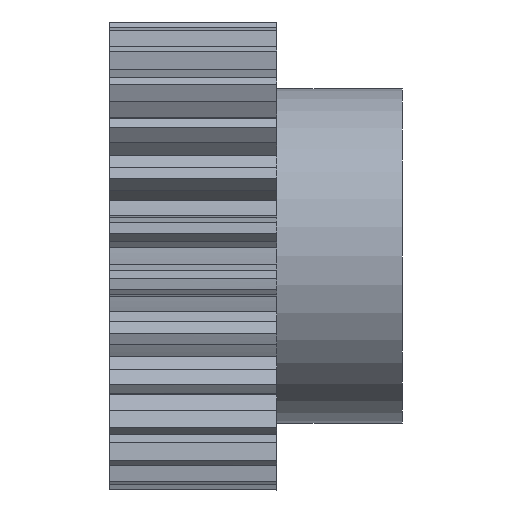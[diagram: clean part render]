
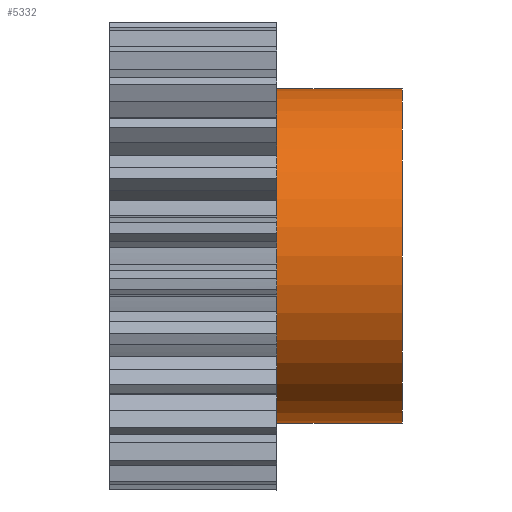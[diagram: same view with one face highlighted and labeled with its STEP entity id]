
A CAD part, front view. The second image highlights one B-rep face of the part: STEP entity #5332.
In plain terms, the highlighted cylindrical face has radius 20 mm (diameter 40 mm), a partial arc.
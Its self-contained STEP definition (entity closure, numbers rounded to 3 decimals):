
#443 = EDGE_CURVE ( 'NONE', #452, #454, #2411, .T. ) ;
#445 = VERTEX_POINT ( 'NONE', #2406 ) ;
#446 = EDGE_CURVE ( 'NONE', #445, #447, #2410, .T. ) ;
#447 = VERTEX_POINT ( 'NONE', #2402 ) ;
#452 = VERTEX_POINT ( 'NONE', #2399 ) ;
#454 = VERTEX_POINT ( 'NONE', #2395 ) ;
#2355 = CARTESIAN_POINT ( 'NONE',  ( 10., 0., 20. ) ) ;
#2395 = CARTESIAN_POINT ( 'NONE',  ( 10., 0., 20. ) ) ;
#2396 = DIRECTION ( 'NONE',  ( -1., 0., 0. ) ) ;
#2397 = VECTOR ( 'NONE', #2396, 1000. ) ;
#2398 = CARTESIAN_POINT ( 'NONE',  ( 10., 0., -20. ) ) ;
#2399 = CARTESIAN_POINT ( 'NONE',  ( 25., 0., 20. ) ) ;
#2402 = CARTESIAN_POINT ( 'NONE',  ( 10., 0., -20. ) ) ;
#2403 = DIRECTION ( 'NONE',  ( -1., 0., 0. ) ) ;
#2404 = VECTOR ( 'NONE', #2403, 1000. ) ;
#2406 = CARTESIAN_POINT ( 'NONE',  ( 25., 0., -20. ) ) ;
#2410 = LINE ( 'NONE', #2398, #2397 ) ;
#2411 = LINE ( 'NONE', #2355, #2404 ) ;
#4584 = CARTESIAN_POINT ( 'NONE',  ( 10., 0., 0. ) ) ;
#4609 = DIRECTION ( 'NONE',  ( 0., 0., 1. ) ) ;
#4610 = DIRECTION ( 'NONE',  ( -1., 0., 0. ) ) ;
#4611 = AXIS2_PLACEMENT_3D ( 'NONE', #4584, #4610, #4609 ) ;
#4614 = CYLINDRICAL_SURFACE ( 'NONE', #4611, 20. ) ;
#4623 = FACE_OUTER_BOUND ( 'NONE', #5330, .T. ) ;
#5004 = CIRCLE ( 'NONE', #5009, 20. ) ;
#5009 = AXIS2_PLACEMENT_3D ( 'NONE', #5015, #5052, #5051 ) ;
#5015 = CARTESIAN_POINT ( 'NONE',  ( 25., 0., 0. ) ) ;
#5032 = CIRCLE ( 'NONE', #5039, 20. ) ;
#5035 = CARTESIAN_POINT ( 'NONE',  ( 10., 0., 0. ) ) ;
#5039 = AXIS2_PLACEMENT_3D ( 'NONE', #5035, #5068, #5067 ) ;
#5051 = DIRECTION ( 'NONE',  ( 0., 0., 1. ) ) ;
#5052 = DIRECTION ( 'NONE',  ( -1., 0., 0. ) ) ;
#5067 = DIRECTION ( 'NONE',  ( 0., 0., 1. ) ) ;
#5068 = DIRECTION ( 'NONE',  ( 1., 0., 0. ) ) ;
#5296 = ORIENTED_EDGE ( 'NONE', *, *, #446, .F. ) ;
#5324 = ORIENTED_EDGE ( 'NONE', *, *, #5600, .T. ) ;
#5325 = ORIENTED_EDGE ( 'NONE', *, *, #5578, .T. ) ;
#5326 = ORIENTED_EDGE ( 'NONE', *, *, #443, .T. ) ;
#5330 = EDGE_LOOP ( 'NONE', ( #5296, #5325, #5326, #5324 ) ) ;
#5332 = ADVANCED_FACE ( 'NONE', ( #4623 ), #4614, .T. ) ;
#5578 = EDGE_CURVE ( 'NONE', #445, #452, #5004, .T. ) ;
#5600 = EDGE_CURVE ( 'NONE', #454, #447, #5032, .T. ) ;
